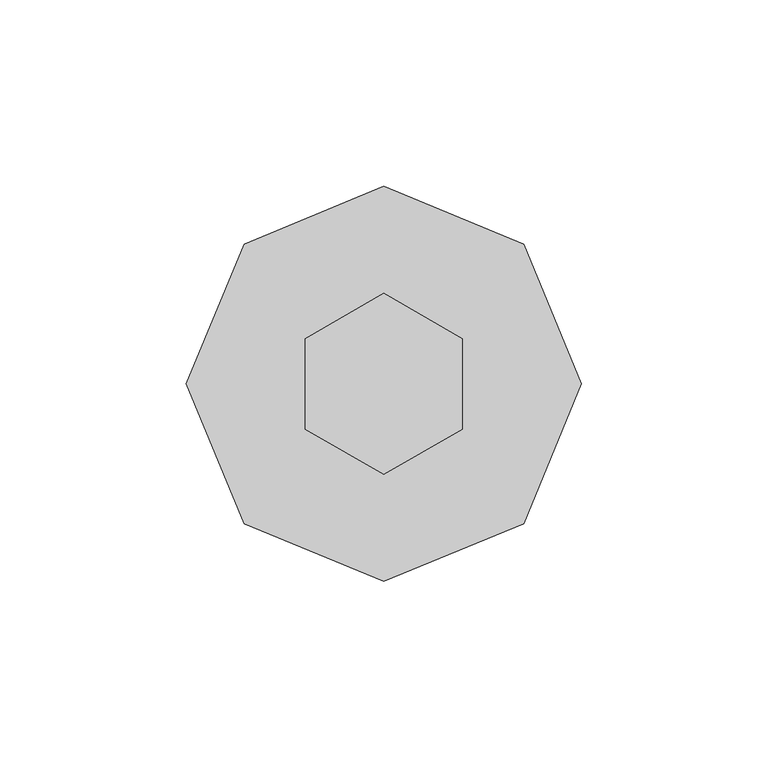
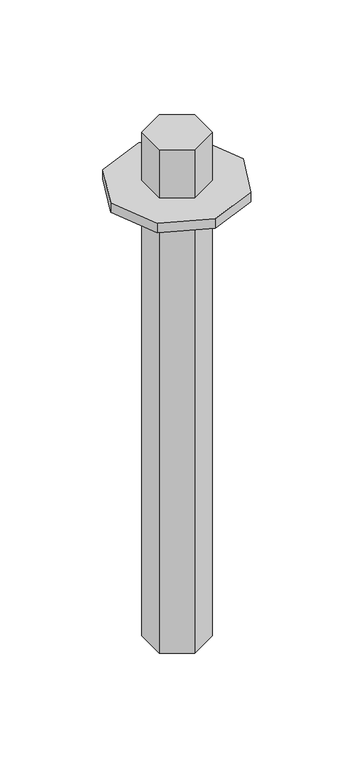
"""IFC4 building model written with IfcOpenShell, lengths in millimetres: proxy geometry, AK_アルバトロスＡＫ支柱L=450_軽 : AK_アルバトロスＡＫ支柱L=450."""

from ifc_helpers import new_model, si_unit, frame, origin, origin_with_axes, place, context, project, spatial, polyline, outline, extrude, source, transform, mapped, element, save


def generic_models_0a93a7db(model_context):
    return source(origin(), model_context, "Body", "SweptSolid", [
        extrude(outline(polyline([(-37.4766594, 37.4766594), (0.0, 53.0), (37.4766594, 37.4766594), (53.0, 0.0), (37.4766594, -37.4766594), (0.0, -53.0), (-37.4766594, -37.4766594), (-53.0, 0.0), (-37.4766594, 37.4766594)])), frame((0.0, 0.0, 376.0), z_axis=(0.0, 0.0, 1.0), x_axis=(1.0, 0.0, 0.0)), (0.0, 0.0, 1.0), 8.0),
        extrude(outline(polyline([(-21.0444173, 12.15), (0.0, 24.3), (21.0444173, 12.15), (21.0444173, -12.15), (0.0, -24.3), (-21.0444173, -12.15), (-21.0444173, 12.15)])), origin_with_axes(), (0.0, 0.0, 1.0), 425.0),
    ])


if __name__ == "__main__":
    model = new_model("IFC4")
    model_context = context("Model", 3, world=origin())
    ifc_project = project(units=[si_unit("LENGTHUNIT", "METRE", prefix="MILLI")], contexts=[model_context])
    site = spatial("IfcSite", under=ifc_project)
    building = spatial("IfcBuilding", under=site)
    placement = place(None, origin())
    generic_models_shape = generic_models_0a93a7db(model_context)
    element("IfcBuildingElementProxy", 1, Name="AK_アルバトロスＡＫ支柱L=450_軽 : AK_アルバトロスＡＫ支柱L=450", ObjectType="AK_アルバトロスＡＫ支柱L=450_軽 : AK_アルバトロスＡＫ支柱L=450", at=placement, inside=building, context=model_context, shape_type="MappedRepresentation", body=[
        mapped(generic_models_shape, transform((0.0, 0.0, 0.0), x_axis=(1.0, 0.0, 0.0), y_axis=(0.0, 1.0, 0.0), z_axis=(0.0, 0.0, 1.0))),
    ])
    save(model, "model.ifc")
